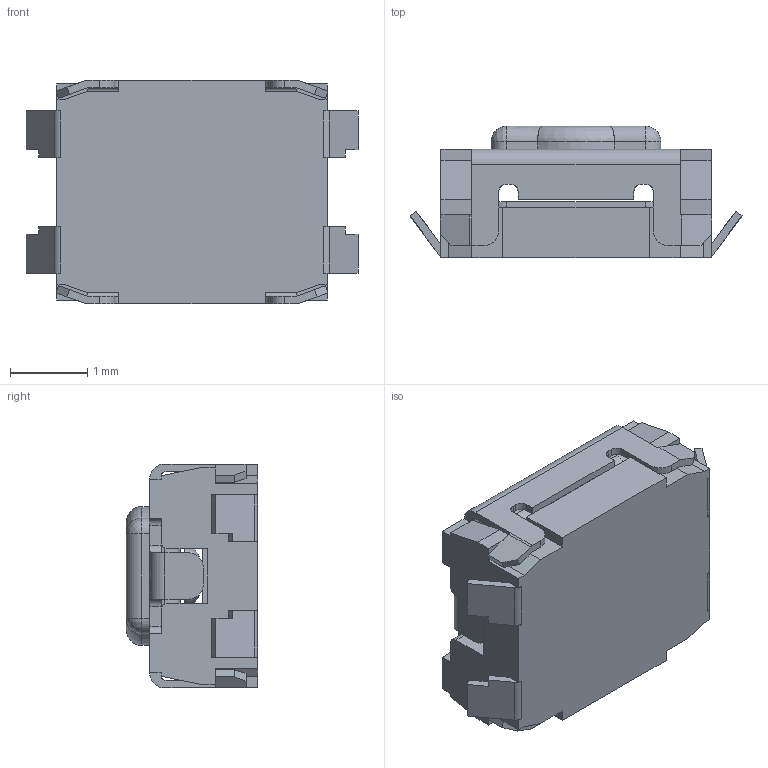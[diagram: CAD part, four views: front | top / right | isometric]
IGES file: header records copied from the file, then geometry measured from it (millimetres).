
Start section:  PTC IGES file: ntc011-aa1j-a100t_.igs
Global section: file name: ntc011-aa1j-a100t_.igs; native system: Pro/ENGINEER by Parametric Technology Corporation; preprocessor: 2008230; author: RD_MAX; organization: Unknown; date: 20090306.181412; units: millimetre
Bounding box: 4.3 x 1.7 x 2.9 mm (x, y, z)
Surface area: 81 mm2 (no closed solid volume)
Topology: 0 solids, 0 shells, 266 faces, 1628 edges, 1696 vertices
Faces by surface type: bspline 186, revolution 80
